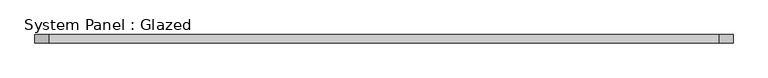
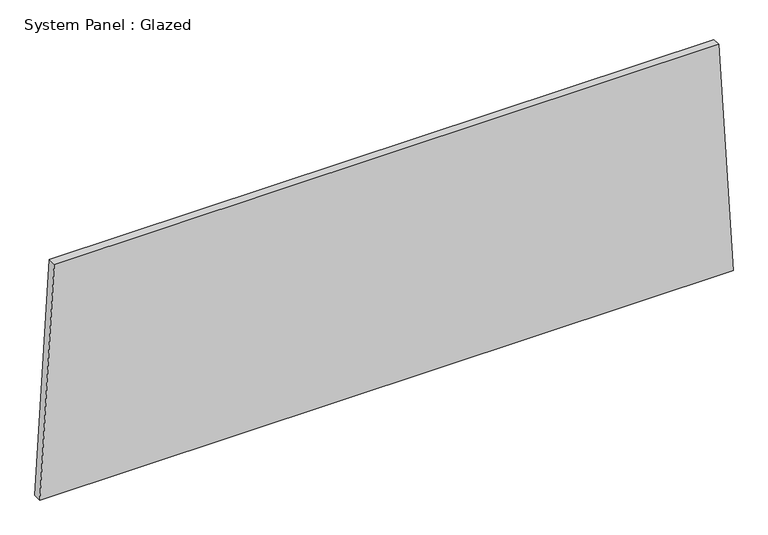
"""IFC4 building model written with IfcOpenShell, lengths in millimetres: plate geometry, System Panel : Glazed."""

from ifc_helpers import new_model, si_unit, frame, origin, place, context, project, spatial, polyline, outline, extrude, source, transform, mapped, element, save


def system_panel_glazed_a08cf5d3(model_context):
    return source(origin(), model_context, "Body", "SweptSolid", [
        extrude(outline(polyline([(0.0, -1042.8384023), (0.0, 1042.8384023), (735.3003601, 999.8382587), (735.3003601, -999.8382587), (0.0, -1042.8384023)])), frame((0.0, -44.45, 0.0), z_axis=(0.0, 1.0, 0.0), x_axis=(0.0, 0.0, 1.0)), (0.0, 0.0, 1.0), 25.4),
    ])


if __name__ == "__main__":
    model = new_model("IFC4")
    model_context = context("Model", 3, world=origin())
    ifc_project = project(units=[si_unit("LENGTHUNIT", "METRE", prefix="MILLI")], contexts=[model_context])
    site = spatial("IfcSite", under=ifc_project)
    building = spatial("IfcBuilding", under=site)
    placement = place(None, origin())
    system_panel_glazed_shape = system_panel_glazed_a08cf5d3(model_context)
    element("IfcPlate", 1, ObjectType="System Panel : Glazed", at=placement, inside=building, context=model_context, shape_type="MappedRepresentation", body=[
        mapped(system_panel_glazed_shape, transform((0.0, 0.0, 0.0), x_axis=(1.0, 0.0, 0.0), y_axis=(0.0, 1.0, 0.0), z_axis=(0.0, 0.0, 1.0))),
    ])
    save(model, "model.ifc")
